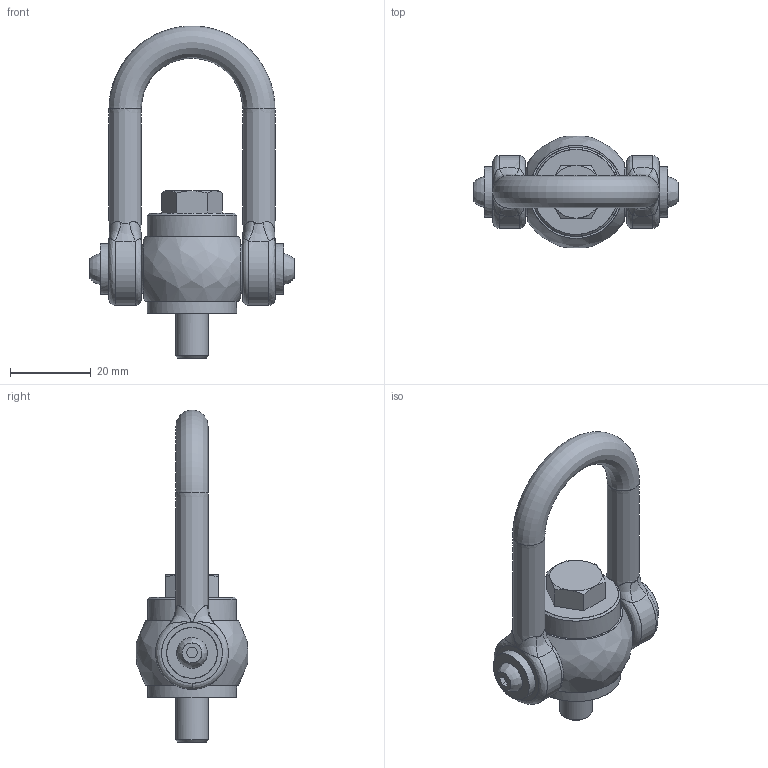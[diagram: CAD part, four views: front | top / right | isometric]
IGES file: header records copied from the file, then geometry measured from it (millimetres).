
Global section: file name: E:\UnigraphicsGraphicData\MISUMI_MOLD-PARTS\NX\3d_sleb8_00875_r00.igs; native system: NX V5.0; preprocessor: UGS NX IGES V5.0; author: MISUMI; date: 20101115.183354; units: millimetre
Bounding box: 50.4 x 27.55 x 82 mm (x, y, z)
Surface area: 9560.4 mm2 (no closed solid volume)
Topology: 0 solids, 0 shells, 81 faces, 656 edges, 629 vertices
Faces by surface type: bspline 81
